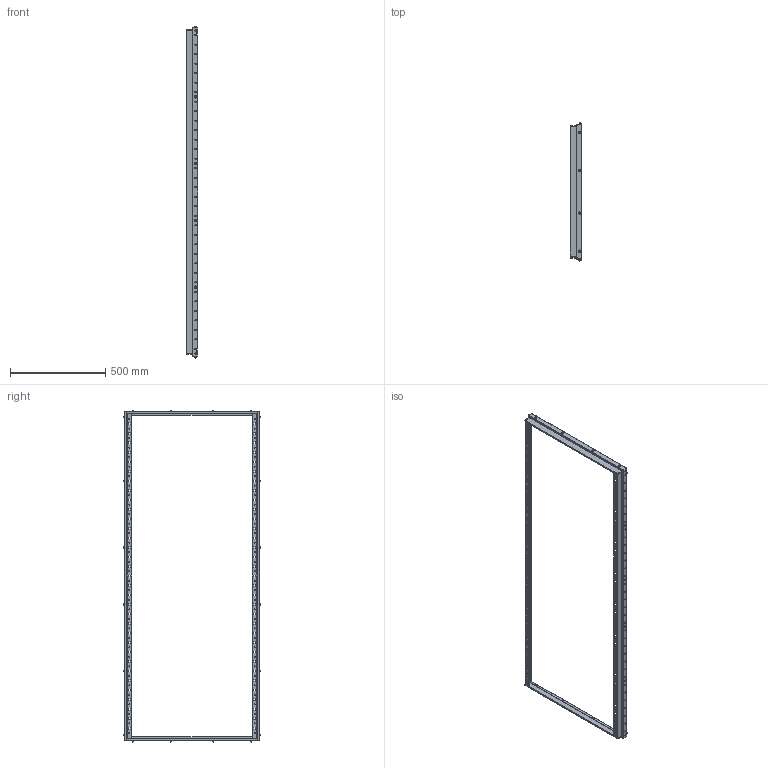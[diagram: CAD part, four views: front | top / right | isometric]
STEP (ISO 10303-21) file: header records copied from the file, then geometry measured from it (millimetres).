
FILE_DESCRIPTION (( 'STEP AP214' ), '1' );
FILE_NAME ('FO-00-UVF-180-080 Ðàìà äëÿ ïëàñòðîíîâ 1800õ800.STEP', '2025-09-24T12:09:13', ( '' ), ( '' ), 'SwSTEP 2.0', 'SolidWorks 2023', '' );
FILE_SCHEMA (( 'AUTOMOTIVE_DESIGN' ));
Length unit declared in the file: millimetre
Products named in the file (1): FO-00-UVF-180-080 Рама для пластронов 1800х800
Bounding box: 60.8 x 725 x 1746 mm (x, y, z)
Volume: 732491.7 mm3; surface area: 883145.1 mm2
Topology: 1 solids, 1 shells, 1716 faces, 4560 edges, 3006 vertices
Faces by surface type: plane 898, cylinder 738, cone 32, sphere 32, torus 16
Entity records: 54707 total; most frequent: CARTESIAN_POINT 10355, ORIENTED_EDGE 9120, DIRECTION 9054, EDGE_CURVE 4560, AXIS2_PLACEMENT_3D 3049, VERTEX_POINT 3006, VECTOR 2956, LINE 2956
